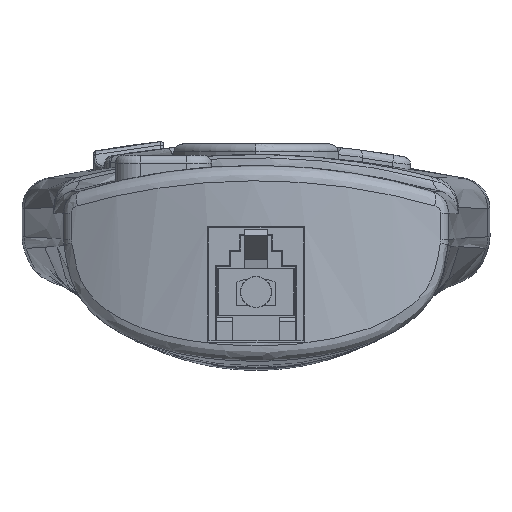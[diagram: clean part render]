
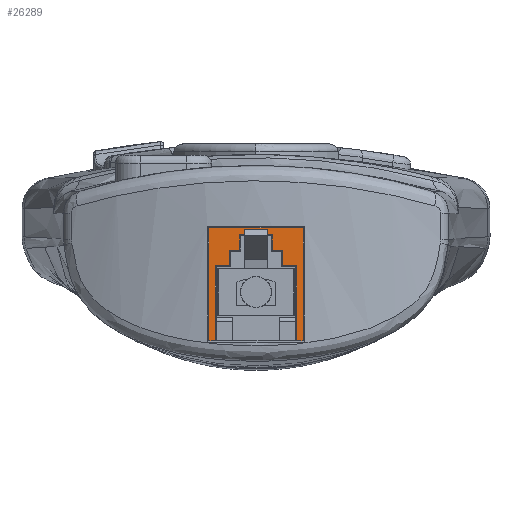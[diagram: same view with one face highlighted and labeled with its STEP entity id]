
A CAD part, front view. The second image highlights one B-rep face of the part: STEP entity #26289.
In plain terms, the highlighted planar face has unit normal (0, -1, 0).
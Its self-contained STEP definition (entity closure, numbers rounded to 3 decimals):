
#1032 = LINE ( 'NONE', #24991, #1087 ) ;
#1041 = VECTOR ( 'NONE', #24987, 1000. ) ;
#1079 = LINE ( 'NONE', #24986, #1041 ) ;
#1082 = LINE ( 'NONE', #24999, #1089 ) ;
#1087 = VECTOR ( 'NONE', #24992, 1000. ) ;
#1089 = VECTOR ( 'NONE', #25000, 1000. ) ;
#1094 = LINE ( 'NONE', #25001, #1095 ) ;
#1095 = VECTOR ( 'NONE', #25002, 1000. ) ;
#1106 = LINE ( 'NONE', #25013, #1107 ) ;
#1107 = VECTOR ( 'NONE', #25014, 1000. ) ;
#1108 = LINE ( 'NONE', #25015, #1109 ) ;
#1109 = VECTOR ( 'NONE', #25016, 1000. ) ;
#1110 = LINE ( 'NONE', #25017, #1111 ) ;
#1111 = VECTOR ( 'NONE', #25018, 1000. ) ;
#1112 = LINE ( 'NONE', #25019, #1113 ) ;
#1113 = VECTOR ( 'NONE', #25020, 1000. ) ;
#1156 = EDGE_CURVE ( 'NONE', #35006, #35012, #3665, .T. ) ;
#1157 = EDGE_CURVE ( 'NONE', #35019, #35007, #3664, .T. ) ;
#1158 = EDGE_CURVE ( 'NONE', #35007, #35009, #3676, .T. ) ;
#1159 = EDGE_CURVE ( 'NONE', #35009, #35010, #3678, .T. ) ;
#1160 = EDGE_CURVE ( 'NONE', #35010, #35011, #3680, .T. ) ;
#1161 = EDGE_CURVE ( 'NONE', #35011, #35008, #3682, .T. ) ;
#1162 = EDGE_CURVE ( 'NONE', #35008, #35016, #3684, .T. ) ;
#1163 = EDGE_CURVE ( 'NONE', #35016, #35000, #3686, .T. ) ;
#3622 = AXIS2_PLACEMENT_3D ( 'NONE', #34025, #34042, #34040 ) ;
#3664 = LINE ( 'NONE', #34642, #3674 ) ;
#3665 = LINE ( 'NONE', #34667, #3672 ) ;
#3672 = VECTOR ( 'NONE', #34666, 1000. ) ;
#3674 = VECTOR ( 'NONE', #34664, 1000. ) ;
#3676 = LINE ( 'NONE', #34663, #3677 ) ;
#3677 = VECTOR ( 'NONE', #34662, 1000. ) ;
#3678 = LINE ( 'NONE', #34661, #3679 ) ;
#3679 = VECTOR ( 'NONE', #34660, 1000. ) ;
#3680 = LINE ( 'NONE', #34659, #3681 ) ;
#3681 = VECTOR ( 'NONE', #34658, 1000. ) ;
#3682 = LINE ( 'NONE', #34657, #3683 ) ;
#3683 = VECTOR ( 'NONE', #34656, 1000. ) ;
#3684 = LINE ( 'NONE', #34654, #3685 ) ;
#3685 = VECTOR ( 'NONE', #34653, 1000. ) ;
#3686 = LINE ( 'NONE', #34652, #3687 ) ;
#3687 = VECTOR ( 'NONE', #34650, 1000. ) ;
#20450 = FACE_OUTER_BOUND ( 'NONE', #27982, .T. ) ;
#23182 = CARTESIAN_POINT ( 'NONE',  ( -3.4, -86.264, -7. ) ) ;
#23184 = CARTESIAN_POINT ( 'NONE',  ( -2.1, -86.264, -7. ) ) ;
#23185 = CARTESIAN_POINT ( 'NONE',  ( 5.25, -86.264, -9. ) ) ;
#23204 = CARTESIAN_POINT ( 'NONE',  ( 2.1, -86.264, -5. ) ) ;
#23205 = CARTESIAN_POINT ( 'NONE',  ( 2.1, -86.264, -7. ) ) ;
#23206 = CARTESIAN_POINT ( 'NONE',  ( -2.1, -86.264, -5. ) ) ;
#23207 = CARTESIAN_POINT ( 'NONE',  ( 3.4, -86.264, -9. ) ) ;
#23208 = CARTESIAN_POINT ( 'NONE',  ( 6.1, -86.264, -4.1 ) ) ;
#23209 = CARTESIAN_POINT ( 'NONE',  ( -5.25, -86.264, -9. ) ) ;
#23210 = CARTESIAN_POINT ( 'NONE',  ( -5.25, -86.264, -18.7 ) ) ;
#23213 = CARTESIAN_POINT ( 'NONE',  ( -6.1, -86.264, -4.1 ) ) ;
#23214 = CARTESIAN_POINT ( 'NONE',  ( 6.1, -86.264, -18.7 ) ) ;
#23215 = CARTESIAN_POINT ( 'NONE',  ( 5.25, -86.264, -18.7 ) ) ;
#23216 = CARTESIAN_POINT ( 'NONE',  ( 3.4, -86.264, -7. ) ) ;
#23217 = CARTESIAN_POINT ( 'NONE',  ( -3.4, -86.264, -9. ) ) ;
#23464 = CARTESIAN_POINT ( 'NONE',  ( -6.1, -86.264, -18.7 ) ) ;
#24986 = CARTESIAN_POINT ( 'NONE',  ( -6.1, -86.264, -4.1 ) ) ;
#24987 = DIRECTION ( 'NONE',  ( 0., 0., -1. ) ) ;
#24991 = CARTESIAN_POINT ( 'NONE',  ( -6.1, -86.264, -18.7 ) ) ;
#24992 = DIRECTION ( 'NONE',  ( 1., 0., 0. ) ) ;
#24999 = CARTESIAN_POINT ( 'NONE',  ( -5.25, -86.264, -9.1 ) ) ;
#25000 = DIRECTION ( 'NONE',  ( 0., 0., 1. ) ) ;
#25001 = CARTESIAN_POINT ( 'NONE',  ( -6.1, -86.264, -18.7 ) ) ;
#25002 = DIRECTION ( 'NONE',  ( 1., 0., 0. ) ) ;
#25013 = CARTESIAN_POINT ( 'NONE',  ( 6.1, -86.264, -18.7 ) ) ;
#25014 = DIRECTION ( 'NONE',  ( 0., 0., 1. ) ) ;
#25015 = CARTESIAN_POINT ( 'NONE',  ( -2., -86.264, -7. ) ) ;
#25016 = DIRECTION ( 'NONE',  ( 1., 0., 0. ) ) ;
#25017 = CARTESIAN_POINT ( 'NONE',  ( -3.4, -86.264, -7.1 ) ) ;
#25018 = DIRECTION ( 'NONE',  ( 0., 0., 1. ) ) ;
#25019 = CARTESIAN_POINT ( 'NONE',  ( 6.1, -86.264, -4.1 ) ) ;
#25020 = DIRECTION ( 'NONE',  ( -1., 0., 0. ) ) ;
#25444 = EDGE_CURVE ( 'NONE', #35002, #35269, #1079, .T. ) ;
#25446 = EDGE_CURVE ( 'NONE', #35269, #35003, #1032, .T. ) ;
#25448 = EDGE_CURVE ( 'NONE', #35003, #35006, #1082, .T. ) ;
#25449 = EDGE_CURVE ( 'NONE', #35000, #34999, #1094, .T. ) ;
#25455 = EDGE_CURVE ( 'NONE', #34999, #35005, #1106, .T. ) ;
#25456 = EDGE_CURVE ( 'NONE', #35020, #35019, #1108, .T. ) ;
#25457 = EDGE_CURVE ( 'NONE', #35012, #35020, #1110, .T. ) ;
#25458 = EDGE_CURVE ( 'NONE', #35005, #35002, #1112, .T. ) ;
#26289 = ADVANCED_FACE ( 'NONE', ( #20450 ), #34031, .T. ) ;
#27693 = ORIENTED_EDGE ( 'NONE', *, *, #25446, .T. ) ;
#27694 = ORIENTED_EDGE ( 'NONE', *, *, #25448, .T. ) ;
#27695 = ORIENTED_EDGE ( 'NONE', *, *, #1156, .T. ) ;
#27696 = ORIENTED_EDGE ( 'NONE', *, *, #25457, .T. ) ;
#27697 = ORIENTED_EDGE ( 'NONE', *, *, #25456, .T. ) ;
#27698 = ORIENTED_EDGE ( 'NONE', *, *, #1157, .T. ) ;
#27699 = ORIENTED_EDGE ( 'NONE', *, *, #1158, .T. ) ;
#27700 = ORIENTED_EDGE ( 'NONE', *, *, #1159, .T. ) ;
#27701 = ORIENTED_EDGE ( 'NONE', *, *, #1160, .T. ) ;
#27702 = ORIENTED_EDGE ( 'NONE', *, *, #1161, .T. ) ;
#27703 = ORIENTED_EDGE ( 'NONE', *, *, #1162, .T. ) ;
#27704 = ORIENTED_EDGE ( 'NONE', *, *, #1163, .T. ) ;
#27705 = ORIENTED_EDGE ( 'NONE', *, *, #25449, .T. ) ;
#27706 = ORIENTED_EDGE ( 'NONE', *, *, #25455, .T. ) ;
#27707 = ORIENTED_EDGE ( 'NONE', *, *, #25458, .T. ) ;
#27708 = ORIENTED_EDGE ( 'NONE', *, *, #25444, .T. ) ;
#27982 = EDGE_LOOP ( 'NONE', ( #27693, #27694, #27695, #27696, #27697, #27698, #27699, #27700, #27701, #27702, #27703, #27704, #27705, #27706, #27707, #27708 ) ) ;
#34025 = CARTESIAN_POINT ( 'NONE',  ( -6.1, -86.264, -18.7 ) ) ;
#34031 = PLANE ( 'NONE',  #3622 ) ;
#34040 = DIRECTION ( 'NONE',  ( 0., 0., -1. ) ) ;
#34042 = DIRECTION ( 'NONE',  ( 0., -1., 0. ) ) ;
#34642 = CARTESIAN_POINT ( 'NONE',  ( -2.1, -86.264, -5.1 ) ) ;
#34650 = DIRECTION ( 'NONE',  ( 0., 0., -1. ) ) ;
#34652 = CARTESIAN_POINT ( 'NONE',  ( 5.25, -86.264, -18.7 ) ) ;
#34653 = DIRECTION ( 'NONE',  ( 1., 0., 0. ) ) ;
#34654 = CARTESIAN_POINT ( 'NONE',  ( 5.15, -86.264, -9. ) ) ;
#34656 = DIRECTION ( 'NONE',  ( 0., 0., -1. ) ) ;
#34657 = CARTESIAN_POINT ( 'NONE',  ( 3.4, -86.264, -9.1 ) ) ;
#34658 = DIRECTION ( 'NONE',  ( 1., 0., 0. ) ) ;
#34659 = CARTESIAN_POINT ( 'NONE',  ( 3.3, -86.264, -7. ) ) ;
#34660 = DIRECTION ( 'NONE',  ( 0., 0., -1. ) ) ;
#34661 = CARTESIAN_POINT ( 'NONE',  ( 2.1, -86.264, -7.1 ) ) ;
#34662 = DIRECTION ( 'NONE',  ( 1., 0., 0. ) ) ;
#34663 = CARTESIAN_POINT ( 'NONE',  ( 2., -86.264, -5. ) ) ;
#34664 = DIRECTION ( 'NONE',  ( 0., 0., 1. ) ) ;
#34666 = DIRECTION ( 'NONE',  ( 1., 0., 0. ) ) ;
#34667 = CARTESIAN_POINT ( 'NONE',  ( -3.3, -86.264, -9. ) ) ;
#34999 = VERTEX_POINT ( 'NONE', #23214 ) ;
#35000 = VERTEX_POINT ( 'NONE', #23215 ) ;
#35002 = VERTEX_POINT ( 'NONE', #23213 ) ;
#35003 = VERTEX_POINT ( 'NONE', #23210 ) ;
#35005 = VERTEX_POINT ( 'NONE', #23208 ) ;
#35006 = VERTEX_POINT ( 'NONE', #23209 ) ;
#35007 = VERTEX_POINT ( 'NONE', #23206 ) ;
#35008 = VERTEX_POINT ( 'NONE', #23207 ) ;
#35009 = VERTEX_POINT ( 'NONE', #23204 ) ;
#35010 = VERTEX_POINT ( 'NONE', #23205 ) ;
#35011 = VERTEX_POINT ( 'NONE', #23216 ) ;
#35012 = VERTEX_POINT ( 'NONE', #23217 ) ;
#35016 = VERTEX_POINT ( 'NONE', #23185 ) ;
#35019 = VERTEX_POINT ( 'NONE', #23184 ) ;
#35020 = VERTEX_POINT ( 'NONE', #23182 ) ;
#35269 = VERTEX_POINT ( 'NONE', #23464 ) ;
